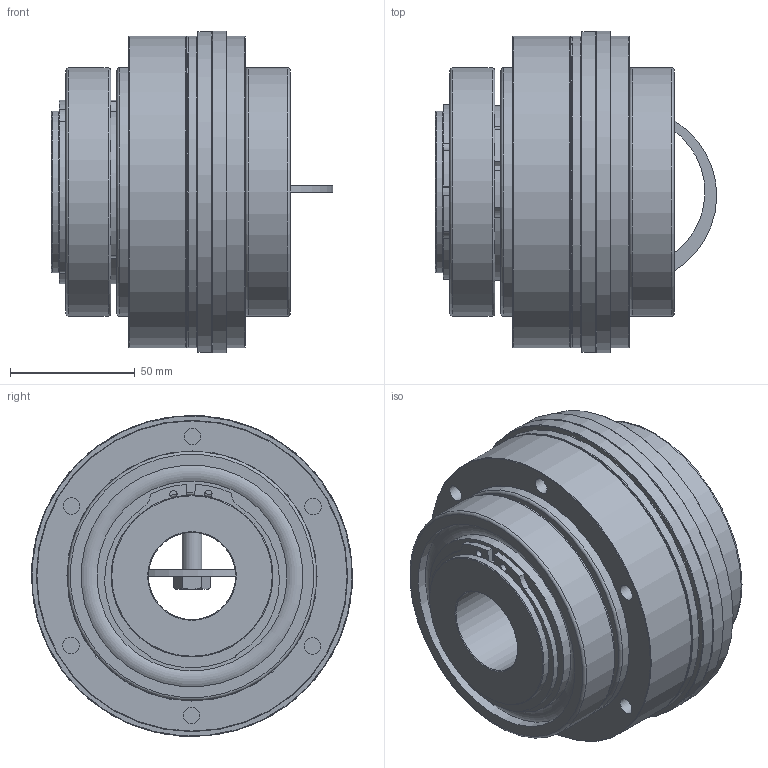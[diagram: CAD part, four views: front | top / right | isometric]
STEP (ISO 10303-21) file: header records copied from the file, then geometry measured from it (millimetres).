
FILE_DESCRIPTION( ( 'Unknown' ), '1' );
FILE_NAME( 'C:/Dokumente und Einstellungen/Sven/Desktop/hp kbk/KBK LL-I-500.stp', 'Unknown', ( 'Unknown' ), ( 'Unknown' ), 'XStep 1.0', 'Unknown', ' ' );
FILE_SCHEMA( ( 'automotive_design' ) );
Length unit declared in the file: millimetre
Products named in the file (12): Assem1; Assem2; ball_bearing_-_6013_0_01; ball_bearing_-_6013_0_02; ball_bearing_-_6013_0_03; Konusbuchse 500; Stellring 500; Druckring 500; a_65; din_en_24017_m8x30_0; KBK LL-I-500 Grundkörper; Flansch 500
Bounding box: 112.95 x 129 x 129 mm (x, y, z)
Volume: 1281551 mm3; surface area: 430661.7 mm2
Topology: 32 solids, 32 shells, 540 faces, 1138 edges, 725 vertices
Faces by surface type: plane 209, cylinder 172, cone 120, torus 39
Full cylindrical faces by diameter (mm): 3 x6, 3.242 x6, 5.1 x6, 5.2 x6, 6.647 x30, 8 x7, 9 x12, 11.63 x7, 35 x4, 62 x4, 62.6 x2, 65 x10, 76.3 x8, 86 x4, 89 x2, 89.1 x8, 91 x2, 100 x6, 104.5 x2, 113 x2, 114 x2, 125 x4, 129 x2
Entity records: 5311 total; most frequent: CARTESIAN_POINT 1141, DIRECTION 866, ORIENTED_EDGE 560, AXIS2_PLACEMENT_3D 403, EDGE_LOOP 354, EDGE_CURVE 280, FACE_OUTER_BOUND 257, VERTEX_POINT 232
